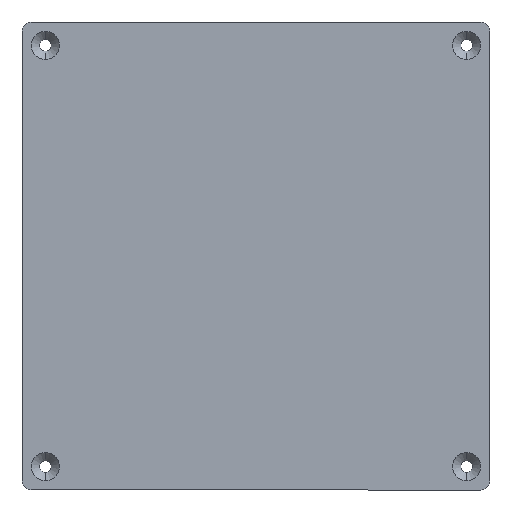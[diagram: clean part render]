
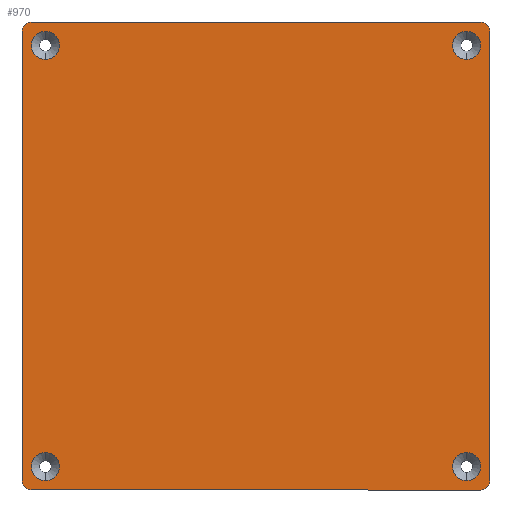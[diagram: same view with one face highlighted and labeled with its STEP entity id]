
A CAD part, front view. The second image highlights one B-rep face of the part: STEP entity #970.
In plain terms, the highlighted planar face has unit normal (0, -1, 0).
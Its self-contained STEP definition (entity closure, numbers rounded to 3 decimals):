
#25 = DIRECTION ( 'NONE',  ( 0., -1., 0. ) ) ;
#47 = VECTOR ( 'NONE', #240, 1000. ) ;
#65 = FACE_BOUND ( 'NONE', #1235, .T. ) ;
#66 = ORIENTED_EDGE ( 'NONE', *, *, #1013, .T. ) ;
#74 = DIRECTION ( 'NONE',  ( -1., 0., 0. ) ) ;
#81 = CIRCLE ( 'NONE', #1120, 6. ) ;
#84 = DIRECTION ( 'NONE',  ( 0., 0., 1. ) ) ;
#105 = CARTESIAN_POINT ( 'NONE',  ( -96., 0., 96. ) ) ;
#106 = VERTEX_POINT ( 'NONE', #974 ) ;
#108 = DIRECTION ( 'NONE',  ( 0., -1., 0. ) ) ;
#110 = VERTEX_POINT ( 'NONE', #413 ) ;
#113 = EDGE_LOOP ( 'NONE', ( #837, #164, #1222, #66, #1212, #803, #1347, #948 ) ) ;
#117 = VERTEX_POINT ( 'NONE', #637 ) ;
#138 = FACE_BOUND ( 'NONE', #454, .T. ) ;
#140 = VERTEX_POINT ( 'NONE', #1448 ) ;
#144 = DIRECTION ( 'NONE',  ( 0., 1., 0. ) ) ;
#155 = LINE ( 'NONE', #566, #796 ) ;
#164 = ORIENTED_EDGE ( 'NONE', *, *, #515, .T. ) ;
#169 = VECTOR ( 'NONE', #74, 1000. ) ;
#178 = ORIENTED_EDGE ( 'NONE', *, *, #493, .T. ) ;
#219 = DIRECTION ( 'NONE',  ( 0., -1., 0. ) ) ;
#224 = CIRCLE ( 'NONE', #764, 6. ) ;
#237 = EDGE_CURVE ( 'NONE', #914, #282, #912, .T. ) ;
#240 = DIRECTION ( 'NONE',  ( 1., 0., 0. ) ) ;
#282 = VERTEX_POINT ( 'NONE', #975 ) ;
#306 = CARTESIAN_POINT ( 'NONE',  ( 0., 0., 0. ) ) ;
#311 = ORIENTED_EDGE ( 'NONE', *, *, #932, .T. ) ;
#320 = CIRCLE ( 'NONE', #1232, 6. ) ;
#325 = DIRECTION ( 'NONE',  ( 0., 0., 1. ) ) ;
#333 = DIRECTION ( 'NONE',  ( 0., 1., 0. ) ) ;
#341 = DIRECTION ( 'NONE',  ( 0., 1., 0. ) ) ;
#353 = AXIS2_PLACEMENT_3D ( 'NONE', #1459, #1437, #426 ) ;
#355 = VERTEX_POINT ( 'NONE', #1208 ) ;
#366 = CARTESIAN_POINT ( 'NONE',  ( -96., 0., -96. ) ) ;
#372 = CARTESIAN_POINT ( 'NONE',  ( 96., 0., 96. ) ) ;
#396 = CARTESIAN_POINT ( 'NONE',  ( 90., 0., 90. ) ) ;
#408 = CARTESIAN_POINT ( 'NONE',  ( 90., 0., 96. ) ) ;
#413 = CARTESIAN_POINT ( 'NONE',  ( 90., 0., -96. ) ) ;
#426 = DIRECTION ( 'NONE',  ( 0., 0., 1. ) ) ;
#434 = DIRECTION ( 'NONE',  ( 0., 0., -1. ) ) ;
#436 = CIRCLE ( 'NONE', #571, 6. ) ;
#440 = CIRCLE ( 'NONE', #1276, 4. ) ;
#451 = CARTESIAN_POINT ( 'NONE',  ( -90., 0., -96. ) ) ;
#454 = EDGE_LOOP ( 'NONE', ( #1081, #178 ) ) ;
#493 = EDGE_CURVE ( 'NONE', #1178, #965, #436, .T. ) ;
#497 = DIRECTION ( 'NONE',  ( 0., 0., 1. ) ) ;
#515 = EDGE_CURVE ( 'NONE', #772, #614, #1023, .T. ) ;
#519 = FACE_BOUND ( 'NONE', #894, .T. ) ;
#544 = AXIS2_PLACEMENT_3D ( 'NONE', #1035, #1481, #84 ) ;
#561 = CIRCLE ( 'NONE', #353, 6. ) ;
#566 = CARTESIAN_POINT ( 'NONE',  ( 100., 0., 100. ) ) ;
#571 = AXIS2_PLACEMENT_3D ( 'NONE', #396, #1128, #1014 ) ;
#603 = AXIS2_PLACEMENT_3D ( 'NONE', #366, #25, #1425 ) ;
#605 = VERTEX_POINT ( 'NONE', #451 ) ;
#607 = CIRCLE ( 'NONE', #922, 6. ) ;
#612 = DIRECTION ( 'NONE',  ( 0., 1., 0. ) ) ;
#614 = VERTEX_POINT ( 'NONE', #693 ) ;
#637 = CARTESIAN_POINT ( 'NONE',  ( 100., 0., 96. ) ) ;
#663 = EDGE_CURVE ( 'NONE', #117, #614, #155, .T. ) ;
#666 = DIRECTION ( 'NONE',  ( 0., 0., 1. ) ) ;
#669 = DIRECTION ( 'NONE',  ( 0., 0., 1. ) ) ;
#674 = DIRECTION ( 'NONE',  ( 0., 1., 0. ) ) ;
#678 = CARTESIAN_POINT ( 'NONE',  ( 96., 0., 100. ) ) ;
#683 = EDGE_CURVE ( 'NONE', #965, #1178, #848, .T. ) ;
#686 = CARTESIAN_POINT ( 'NONE',  ( 100., 0., -100. ) ) ;
#693 = CARTESIAN_POINT ( 'NONE',  ( 100., 0., -96. ) ) ;
#715 = LINE ( 'NONE', #1272, #1470 ) ;
#718 = AXIS2_PLACEMENT_3D ( 'NONE', #821, #341, #813 ) ;
#723 = EDGE_CURVE ( 'NONE', #1109, #140, #320, .T. ) ;
#758 = CARTESIAN_POINT ( 'NONE',  ( 90., 0., -84. ) ) ;
#759 = CARTESIAN_POINT ( 'NONE',  ( -100., 0., 96. ) ) ;
#764 = AXIS2_PLACEMENT_3D ( 'NONE', #1427, #144, #1338 ) ;
#772 = VERTEX_POINT ( 'NONE', #1002 ) ;
#773 = CIRCLE ( 'NONE', #1476, 6. ) ;
#781 = AXIS2_PLACEMENT_3D ( 'NONE', #306, #674, #669 ) ;
#796 = VECTOR ( 'NONE', #434, 1000. ) ;
#803 = ORIENTED_EDGE ( 'NONE', *, *, #1460, .T. ) ;
#813 = DIRECTION ( 'NONE',  ( 0., 0., 1. ) ) ;
#821 = CARTESIAN_POINT ( 'NONE',  ( 90., 0., 90. ) ) ;
#827 = CARTESIAN_POINT ( 'NONE',  ( -90., 0., 96. ) ) ;
#836 = VERTEX_POINT ( 'NONE', #759 ) ;
#837 = ORIENTED_EDGE ( 'NONE', *, *, #1317, .F. ) ;
#841 = ORIENTED_EDGE ( 'NONE', *, *, #1354, .T. ) ;
#843 = CARTESIAN_POINT ( 'NONE',  ( 100., 0., 100. ) ) ;
#848 = CIRCLE ( 'NONE', #718, 6. ) ;
#865 = CIRCLE ( 'NONE', #1281, 4. ) ;
#867 = EDGE_CURVE ( 'NONE', #1228, #110, #607, .T. ) ;
#894 = EDGE_LOOP ( 'NONE', ( #841, #311 ) ) ;
#908 = ORIENTED_EDGE ( 'NONE', *, *, #723, .T. ) ;
#912 = CIRCLE ( 'NONE', #603, 4. ) ;
#914 = VERTEX_POINT ( 'NONE', #1294 ) ;
#922 = AXIS2_PLACEMENT_3D ( 'NONE', #1302, #612, #947 ) ;
#932 = EDGE_CURVE ( 'NONE', #355, #605, #224, .T. ) ;
#947 = DIRECTION ( 'NONE',  ( 0., 0., 1. ) ) ;
#948 = ORIENTED_EDGE ( 'NONE', *, *, #237, .T. ) ;
#954 = FACE_OUTER_BOUND ( 'NONE', #113, .T. ) ;
#965 = VERTEX_POINT ( 'NONE', #1135 ) ;
#970 = ADVANCED_FACE ( 'NONE', ( #138, #65, #1278, #519, #954 ), #1370, .F. ) ;
#974 = CARTESIAN_POINT ( 'NONE',  ( -96., 0., 100. ) ) ;
#975 = CARTESIAN_POINT ( 'NONE',  ( -96., 0., -100. ) ) ;
#1001 = EDGE_CURVE ( 'NONE', #106, #1368, #1290, .T. ) ;
#1002 = CARTESIAN_POINT ( 'NONE',  ( 96., 0., -100. ) ) ;
#1004 = DIRECTION ( 'NONE',  ( 0., 1., 0. ) ) ;
#1012 = CARTESIAN_POINT ( 'NONE',  ( -90., 0., -90. ) ) ;
#1013 = EDGE_CURVE ( 'NONE', #117, #1368, #865, .T. ) ;
#1014 = DIRECTION ( 'NONE',  ( 0., 0., 1. ) ) ;
#1023 = CIRCLE ( 'NONE', #544, 4. ) ;
#1028 = ORIENTED_EDGE ( 'NONE', *, *, #867, .T. ) ;
#1031 = DIRECTION ( 'NONE',  ( 0., 0., 1. ) ) ;
#1034 = DIRECTION ( 'NONE',  ( 0., 0., 1. ) ) ;
#1035 = CARTESIAN_POINT ( 'NONE',  ( 96., 0., -96. ) ) ;
#1052 = EDGE_CURVE ( 'NONE', #914, #836, #715, .T. ) ;
#1081 = ORIENTED_EDGE ( 'NONE', *, *, #683, .T. ) ;
#1082 = EDGE_CURVE ( 'NONE', #140, #1109, #81, .T. ) ;
#1109 = VERTEX_POINT ( 'NONE', #827 ) ;
#1120 = AXIS2_PLACEMENT_3D ( 'NONE', #1457, #1004, #497 ) ;
#1128 = DIRECTION ( 'NONE',  ( 0., 1., 0. ) ) ;
#1135 = CARTESIAN_POINT ( 'NONE',  ( 90., 0., 84. ) ) ;
#1175 = EDGE_CURVE ( 'NONE', #110, #1228, #561, .T. ) ;
#1176 = ORIENTED_EDGE ( 'NONE', *, *, #1175, .T. ) ;
#1178 = VERTEX_POINT ( 'NONE', #408 ) ;
#1208 = CARTESIAN_POINT ( 'NONE',  ( -90., 0., -84. ) ) ;
#1212 = ORIENTED_EDGE ( 'NONE', *, *, #1001, .F. ) ;
#1222 = ORIENTED_EDGE ( 'NONE', *, *, #663, .F. ) ;
#1228 = VERTEX_POINT ( 'NONE', #758 ) ;
#1232 = AXIS2_PLACEMENT_3D ( 'NONE', #1504, #333, #1492 ) ;
#1235 = EDGE_LOOP ( 'NONE', ( #1255, #908 ) ) ;
#1255 = ORIENTED_EDGE ( 'NONE', *, *, #1082, .T. ) ;
#1272 = CARTESIAN_POINT ( 'NONE',  ( -100., 0., 100. ) ) ;
#1276 = AXIS2_PLACEMENT_3D ( 'NONE', #105, #219, #325 ) ;
#1278 = FACE_BOUND ( 'NONE', #1323, .T. ) ;
#1281 = AXIS2_PLACEMENT_3D ( 'NONE', #372, #108, #1031 ) ;
#1290 = LINE ( 'NONE', #843, #47 ) ;
#1294 = CARTESIAN_POINT ( 'NONE',  ( -100., 0., -96. ) ) ;
#1302 = CARTESIAN_POINT ( 'NONE',  ( 90., 0., -90. ) ) ;
#1317 = EDGE_CURVE ( 'NONE', #772, #282, #1386, .T. ) ;
#1323 = EDGE_LOOP ( 'NONE', ( #1176, #1028 ) ) ;
#1338 = DIRECTION ( 'NONE',  ( 0., 0., 1. ) ) ;
#1347 = ORIENTED_EDGE ( 'NONE', *, *, #1052, .F. ) ;
#1354 = EDGE_CURVE ( 'NONE', #605, #355, #773, .T. ) ;
#1359 = DIRECTION ( 'NONE',  ( 0., 1., 0. ) ) ;
#1368 = VERTEX_POINT ( 'NONE', #678 ) ;
#1370 = PLANE ( 'NONE',  #781 ) ;
#1386 = LINE ( 'NONE', #686, #169 ) ;
#1425 = DIRECTION ( 'NONE',  ( 0., 0., 1. ) ) ;
#1427 = CARTESIAN_POINT ( 'NONE',  ( -90., 0., -90. ) ) ;
#1437 = DIRECTION ( 'NONE',  ( 0., 1., 0. ) ) ;
#1448 = CARTESIAN_POINT ( 'NONE',  ( -90., 0., 84. ) ) ;
#1457 = CARTESIAN_POINT ( 'NONE',  ( -90., 0., 90. ) ) ;
#1459 = CARTESIAN_POINT ( 'NONE',  ( 90., 0., -90. ) ) ;
#1460 = EDGE_CURVE ( 'NONE', #106, #836, #440, .T. ) ;
#1470 = VECTOR ( 'NONE', #1034, 1000. ) ;
#1476 = AXIS2_PLACEMENT_3D ( 'NONE', #1012, #1359, #666 ) ;
#1481 = DIRECTION ( 'NONE',  ( 0., -1., 0. ) ) ;
#1492 = DIRECTION ( 'NONE',  ( 0., 0., 1. ) ) ;
#1504 = CARTESIAN_POINT ( 'NONE',  ( -90., 0., 90. ) ) ;
